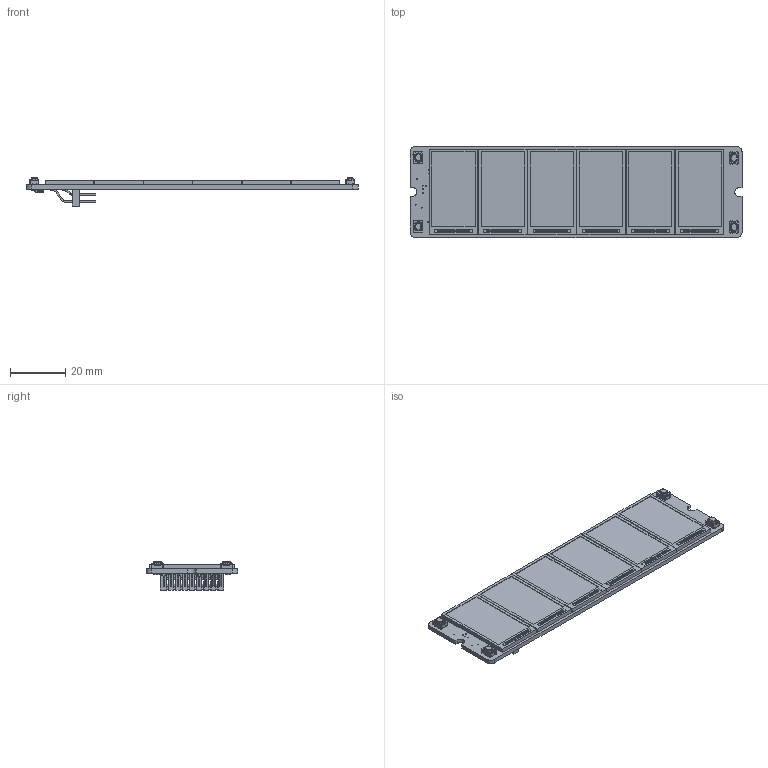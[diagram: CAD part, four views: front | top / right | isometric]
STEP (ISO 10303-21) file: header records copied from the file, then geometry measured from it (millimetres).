
FILE_DESCRIPTION(/* description */ (''),/* implementation_level */ '2;1');
FILE_NAME(/* name */ 'C:/Users/Josue/Desktop/DisplayArrayPlus v4.step',/* time_stamp */ '2021-03-22T14:58:40-06:00',/* author */ (''),/* organization */ (''),/* preprocessor_version */ 'ST-DEVELOPER v18.1',/* originating_system */ 'Autodesk Translation Framework v9.10.0.1330',/* authorisation */ '');
FILE_SCHEMA (('AUTOMOTIVE_DESIGN { 1 0 10303 214 3 1 1 }'));
Products named in the file (51): DisplayArrayPlus; Board; Packages; C0603; C0603 (1); R0805; core; Pad; R0805 (1); core (1); Pad (1); R0805 (2); core (2); Pad (2); R0805 (3); core (3); Pad (3); R0805 (4); core (4); Pad (4); SOT23; 434123025826; Frame; Cover; Stem; Terminal; 434123025826 (1); Frame (1); Cover (1); Stem (1); Terminal (1); 434123025826 (2); Frame (2); Cover (2); Stem (2); Terminal (2); 434123025826 (3); Frame (3); Cover (3); Stem (3)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
Assembly tree (67 placements, depth 4):
  DisplayArrayPlus
    Board
    Packages
      C0603
      C0603 (1)
      R0805
        core
        Pad  x2
      R0805 (1)
        core (1)
        Pad (1)  x2
      R0805 (2)
        core (2)
        Pad (2)  x2
      R0805 (3)
        core (3)
        Pad (3)  x2
      R0805 (4)
        core (4)
        Pad (4)  x2
      SOT23
      434123025826
        Frame
        Cover
        Stem
        Terminal  x4
      434123025826 (1)
        Frame (1)
        Cover (1)
        Stem (1)
        Terminal (1)  x4
      434123025826 (2)
        Frame (2)
        Cover (2)
        Stem (2)
        Terminal (2)  x4
      434123025826 (3)
        Frame (3)
        Cover (3)
        Stem (3)
        Terminal (3)  x4
      SE_SMALL_SILK
      SAMTEC-TSM-109-02-X-DH-A
        _TSM-109-01-DH_body
        _T-1S6-09(-01-9-DH)
      IPSLCD114
      IPSLCD114 (1)
      IPSLCD114 (2)
      IPSLCD114 (3)
      IPSLCD114 (4)
      IPSLCD114 (5)
Bounding box: 120 x 33 x 10.19 mm (x, y, z)
Volume: 11083.1 mm3; surface area: 18121.1 mm2
Topology: 61 solids, 61 shells, 2193 faces, 5847 edges, 3750 vertices
Faces by surface type: plane 1635, cylinder 478, sphere 72, torus 8
Full cylindrical faces by diameter (mm): 0.35 x90, 0.75 x4, 1.78 x2
Entity records: 65350 total; most frequent: CARTESIAN_POINT 11347, ORIENTED_EDGE 10614, DIRECTION 10347, EDGE_CURVE 5307, LINE 4407, VECTOR 4407, VERTEX_POINT 3458, AXIS2_PLACEMENT_3D 2970
